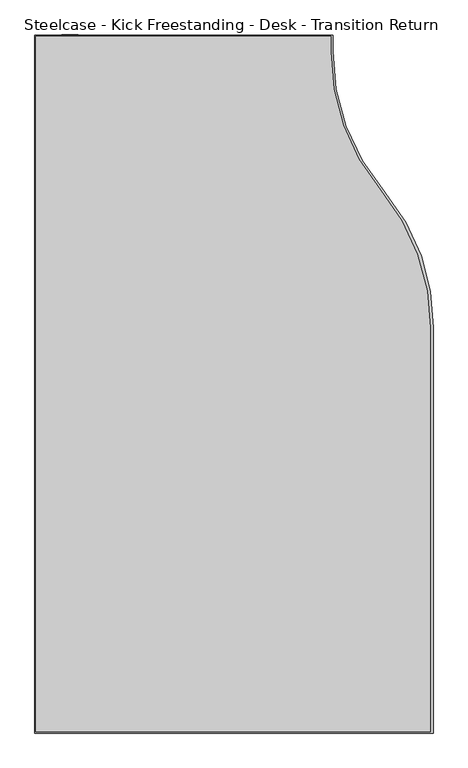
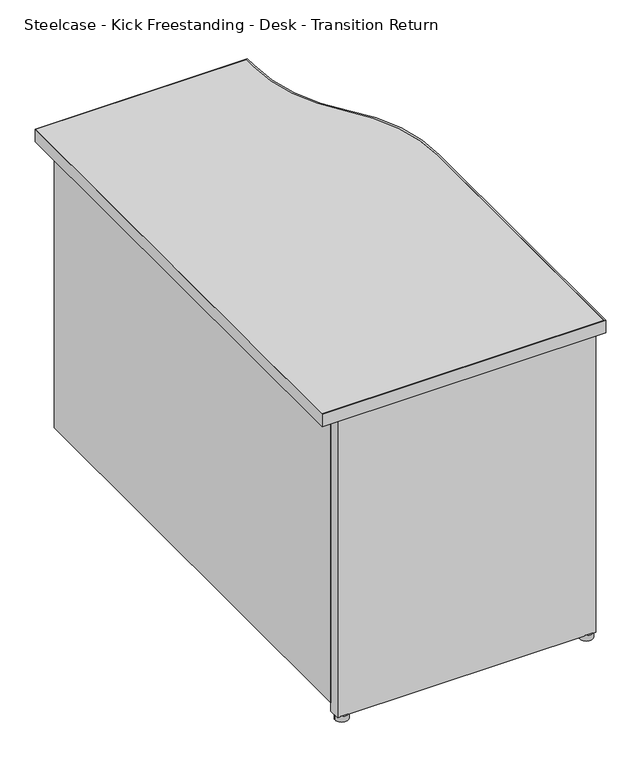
"""IFC4 building model written with IfcOpenShell, lengths in millimetres: furniture geometry, Steelcase - Kick Freestanding - Desk - Transition Return : 18D x 42W - Left - Full Panel."""

from ifc_helpers import new_model, si_unit, point, frame, frame_2d, origin, origin_with_axes, place, context, project, spatial, polyline, circle_curve, trimmed, segment, composite_curve, outline, extrude, source, transform, mapped, element, save


def steelcase_kick_freestanding_desk_transition_return_1f2f7f0f(model_context):
    return source(origin(), model_context, "Body", "SweptSolid", [
        extrude(outline(composite_curve([segment(trimmed(circle_curve(frame_2d((2220.2474425, -1588.7225152)), 13.97), [point((2206.2774425, -1588.7225152))], [point((2234.2174425, -1588.7225152))], False, "CARTESIAN"), True, "CONTINUOUS"), segment(trimmed(circle_curve(frame_2d((2220.2474425, -1588.7225152)), 13.97), [point((2234.2174425, -1588.7225152))], [point((2206.2774425, -1588.7225152))], False, "CARTESIAN"), True, "CONTINUOUS")], self_intersect=False)), origin_with_axes(), (0.0, 0.0, 1.0), 12.7),
        extrude(outline(composite_curve([segment(trimmed(circle_curve(frame_2d((2745.2654425, -1588.6400875)), 13.97), [point((2731.2954425, -1588.6400875))], [point((2759.2354425, -1588.6400875))], False, "CARTESIAN"), True, "CONTINUOUS"), segment(trimmed(circle_curve(frame_2d((2745.2654425, -1588.6400875)), 13.97), [point((2759.2354425, -1588.6400875))], [point((2731.2954425, -1588.6400875))], False, "CARTESIAN"), True, "CONTINUOUS")], self_intersect=False)), origin_with_axes(), (0.0, 0.0, 1.0), 12.7),
        extrude(outline(composite_curve([segment(polyline([(2616.8176592, -547.8051152), (2616.8176592, -572.1320079)]), True, "CONTINUOUS"), segment(trimmed(circle_curve(frame_2d((2941.6463505, -574.5942763)), 324.8380233), [point((2616.8176592, -572.1320079))], [point((2692.5587903, -783.1011797))], True, "CARTESIAN"), True, "CONTINUOUS"), segment(trimmed(circle_curve(frame_2d((2440.4841513, -994.1085152)), 328.7335079), [point((2692.5587903, -783.1011797))], [point((2769.2176592, -994.1085152))], False, "CARTESIAN"), True, "CONTINUOUS"), segment(polyline([(2769.2176592, -994.1085152), (2769.2176592, -1611.8619332), (2164.8500425, -1611.8619332), (2164.8500425, -547.8051152), (2616.8176592, -547.8051152)]), True, "CONTINUOUS")], self_intersect=False)), frame((0.0, 0.0, 694.944), z_axis=(0.0, 0.0, 1.0), x_axis=(1.0, 0.0, 0.0)), (0.0, 0.0, 1.0), 28.956),
        extrude(outline(composite_curve([segment(polyline([(2619.7894255, -546.8145152), (2619.7894255, -571.0836731)]), True, "CONTINUOUS"), segment(trimmed(circle_curve(frame_2d((2951.3460478, -571.0836731)), 331.5566223), [point((2619.7894255, -571.0836731))], [point((2699.261298, -786.4509703))], True, "CARTESIAN"), True, "CONTINUOUS"), segment(trimmed(circle_curve(frame_2d((2463.6949436, -987.7058619)), 309.8306613), [point((2699.261298, -786.4509703))], [point((2773.4594425, -994.1085152))], False, "CARTESIAN"), True, "CONTINUOUS"), segment(polyline([(2773.4594425, -994.1085152), (2773.4594425, -1613.6145152), (2163.8594425, -1613.6145152), (2163.8594425, -546.8145152), (2619.7894255, -546.8145152)]), True, "CONTINUOUS")], self_intersect=False), holes=[composite_curve([segment(polyline([(2616.8176592, -547.8051152), (2164.8500425, -547.8051152), (2164.8500425, -1611.8619332), (2769.2176592, -1611.8619332), (2769.2176592, -994.1085152)]), True, "CONTINUOUS"), segment(trimmed(circle_curve(frame_2d((2440.4841513, -994.1085152)), 328.7335079), [point((2769.2176592, -994.1085152))], [point((2692.5587903, -783.1011797))], True, "CARTESIAN"), True, "CONTINUOUS"), segment(trimmed(circle_curve(frame_2d((2941.6463505, -574.5942763)), 324.8380233), [point((2692.5587903, -783.1011797))], [point((2616.8176592, -572.1320079))], False, "CARTESIAN"), True, "CONTINUOUS"), segment(polyline([(2616.8176592, -572.1320079), (2616.8176592, -547.8051152)]), True, "CONTINUOUS")], self_intersect=False)]), frame((0.0, 0.0, 694.944), z_axis=(0.0, 0.0, 1.0), x_axis=(1.0, 0.0, 0.0)), (0.0, 0.0, 1.0), 28.956),
        extrude(outline(polyline([(2205.0074425, -1575.6669041), (2328.2736437, -1575.6669041), (2328.2736437, -1598.0951136), (2427.9940467, -1598.0951136), (2427.9940467, -1575.6669041), (2536.7314502, -1575.6669041), (2536.7314502, -1598.0951136), (2636.4518532, -1598.0951136), (2636.4518532, -1575.6669041), (2759.4894376, -1575.6669041), (2759.4894376, -1600.1525152), (2205.0074425, -1600.1525152), (2205.0074425, -1575.6669041)])), frame((0.0, 0.0, 12.7), z_axis=(0.0, 0.0, 1.0), x_axis=(1.0, 0.0, 0.0)), (0.0, 0.0, 1.0), 682.244),
        extrude(outline(polyline([(2230.4074426, -546.0525152), (2230.4074426, -1575.6669041), (2205.0074425, -1575.6669041), (2205.0074425, -546.0525152), (2230.4074426, -546.0525152)])), frame((0.0, 0.0, 31.242), z_axis=(0.0, 0.0, 1.0), x_axis=(1.0, 0.0, 0.0)), (0.0, 0.0, 1.0), 663.702),
    ])


if __name__ == "__main__":
    model = new_model("IFC4")
    model_context = context("Model", 3, world=origin())
    ifc_project = project(units=[si_unit("LENGTHUNIT", "METRE", prefix="MILLI")], contexts=[model_context])
    site = spatial("IfcSite", under=ifc_project)
    building = spatial("IfcBuilding", under=site)
    placement = place(None, origin())
    steelcase_kick_freestanding_desk_transition_return_shape = steelcase_kick_freestanding_desk_transition_return_1f2f7f0f(model_context)
    element("IfcFurniture", 1, ObjectType="Steelcase - Kick Freestanding - Desk - Transition Return : 18D x 42W - Left - Full Panel", at=placement, inside=building, context=model_context, shape_type="MappedRepresentation", body=[
        mapped(steelcase_kick_freestanding_desk_transition_return_shape, transform((0.0, 0.0, 0.0), x_axis=(1.0, 0.0, 0.0), y_axis=(0.0, 1.0, 0.0), z_axis=(0.0, 0.0, 1.0))),
    ])
    save(model, "model.ifc")
